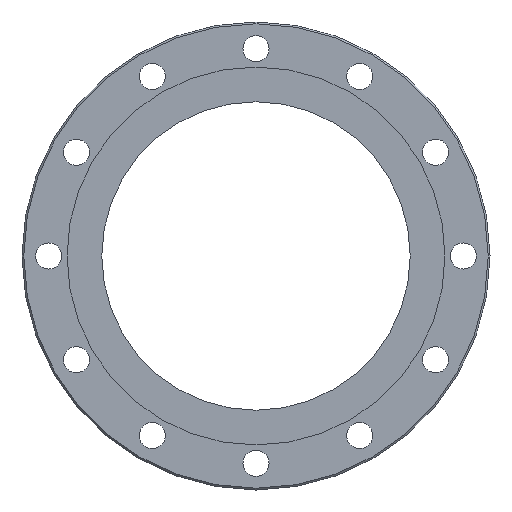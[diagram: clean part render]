
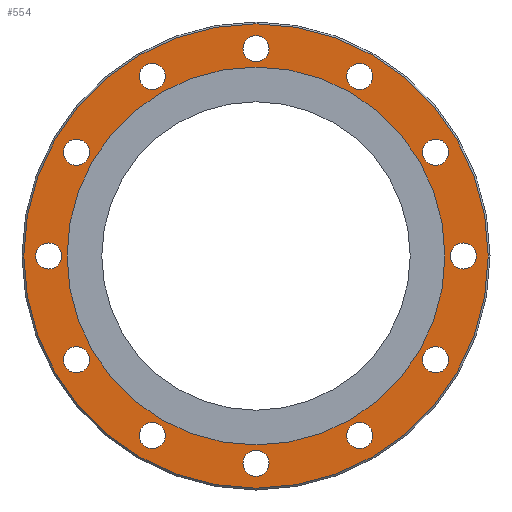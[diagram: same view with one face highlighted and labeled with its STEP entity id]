
A CAD part, left-side view. The second image highlights one B-rep face of the part: STEP entity #554.
In plain terms, the highlighted planar face has unit normal (-1, 0, 0).
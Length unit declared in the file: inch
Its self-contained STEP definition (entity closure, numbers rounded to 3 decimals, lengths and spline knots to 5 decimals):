
#15=FACE_BOUND('',#99,.T.);
#16=FACE_BOUND('',#100,.T.);
#17=FACE_BOUND('',#101,.T.);
#18=FACE_BOUND('',#102,.T.);
#19=FACE_BOUND('',#103,.T.);
#20=FACE_BOUND('',#104,.T.);
#21=FACE_BOUND('',#105,.T.);
#22=FACE_BOUND('',#106,.T.);
#23=FACE_BOUND('',#107,.T.);
#24=FACE_BOUND('',#108,.T.);
#25=FACE_BOUND('',#109,.T.);
#26=FACE_BOUND('',#110,.T.);
#27=FACE_BOUND('',#111,.T.);
#45=PLANE('',#606);
#71=FACE_OUTER_BOUND('',#98,.T.);
#98=EDGE_LOOP('',(#385));
#99=EDGE_LOOP('',(#386,#387));
#100=EDGE_LOOP('',(#388));
#101=EDGE_LOOP('',(#389));
#102=EDGE_LOOP('',(#390));
#103=EDGE_LOOP('',(#391));
#104=EDGE_LOOP('',(#392));
#105=EDGE_LOOP('',(#393));
#106=EDGE_LOOP('',(#394));
#107=EDGE_LOOP('',(#395));
#108=EDGE_LOOP('',(#396));
#109=EDGE_LOOP('',(#397));
#110=EDGE_LOOP('',(#398));
#111=EDGE_LOOP('',(#399));
#193=CIRCLE('',#600,7.7155);
#198=CIRCLE('',#607,6.2795);
#199=CIRCLE('',#608,6.2795);
#200=CIRCLE('',#609,0.435);
#201=CIRCLE('',#610,0.435);
#202=CIRCLE('',#611,0.435);
#203=CIRCLE('',#612,0.435);
#204=CIRCLE('',#613,0.435);
#205=CIRCLE('',#614,0.435);
#206=CIRCLE('',#615,0.435);
#207=CIRCLE('',#616,0.435);
#208=CIRCLE('',#617,0.435);
#209=CIRCLE('',#618,0.435);
#210=CIRCLE('',#619,0.435);
#211=CIRCLE('',#620,0.435);
#247=VERTEX_POINT('',#866);
#252=VERTEX_POINT('',#880);
#253=VERTEX_POINT('',#881);
#254=VERTEX_POINT('',#884);
#255=VERTEX_POINT('',#886);
#256=VERTEX_POINT('',#888);
#257=VERTEX_POINT('',#890);
#258=VERTEX_POINT('',#892);
#259=VERTEX_POINT('',#894);
#260=VERTEX_POINT('',#896);
#261=VERTEX_POINT('',#898);
#262=VERTEX_POINT('',#900);
#263=VERTEX_POINT('',#902);
#264=VERTEX_POINT('',#904);
#265=VERTEX_POINT('',#906);
#300=EDGE_CURVE('',#247,#247,#193,.T.);
#307=EDGE_CURVE('',#252,#253,#198,.T.);
#308=EDGE_CURVE('',#253,#252,#199,.T.);
#309=EDGE_CURVE('',#254,#254,#200,.T.);
#310=EDGE_CURVE('',#255,#255,#201,.T.);
#311=EDGE_CURVE('',#256,#256,#202,.T.);
#312=EDGE_CURVE('',#257,#257,#203,.T.);
#313=EDGE_CURVE('',#258,#258,#204,.T.);
#314=EDGE_CURVE('',#259,#259,#205,.T.);
#315=EDGE_CURVE('',#260,#260,#206,.T.);
#316=EDGE_CURVE('',#261,#261,#207,.T.);
#317=EDGE_CURVE('',#262,#262,#208,.T.);
#318=EDGE_CURVE('',#263,#263,#209,.T.);
#319=EDGE_CURVE('',#264,#264,#210,.T.);
#320=EDGE_CURVE('',#265,#265,#211,.T.);
#385=ORIENTED_EDGE('',*,*,#300,.F.);
#386=ORIENTED_EDGE('',*,*,#307,.F.);
#387=ORIENTED_EDGE('',*,*,#308,.F.);
#388=ORIENTED_EDGE('',*,*,#309,.T.);
#389=ORIENTED_EDGE('',*,*,#310,.T.);
#390=ORIENTED_EDGE('',*,*,#311,.T.);
#391=ORIENTED_EDGE('',*,*,#312,.T.);
#392=ORIENTED_EDGE('',*,*,#313,.T.);
#393=ORIENTED_EDGE('',*,*,#314,.T.);
#394=ORIENTED_EDGE('',*,*,#315,.T.);
#395=ORIENTED_EDGE('',*,*,#316,.T.);
#396=ORIENTED_EDGE('',*,*,#317,.T.);
#397=ORIENTED_EDGE('',*,*,#318,.T.);
#398=ORIENTED_EDGE('',*,*,#319,.T.);
#399=ORIENTED_EDGE('',*,*,#320,.T.);
#554=ADVANCED_FACE('',(#71,#15,#16,#17,#18,#19,#20,#21,#22,#23,#24,#25,
#26,#27),#45,.T.);
#600=AXIS2_PLACEMENT_3D('',#867,#684,#685);
#606=AXIS2_PLACEMENT_3D('',#879,#698,#699);
#607=AXIS2_PLACEMENT_3D('',#882,#700,#701);
#608=AXIS2_PLACEMENT_3D('',#883,#702,#703);
#609=AXIS2_PLACEMENT_3D('',#885,#704,#705);
#610=AXIS2_PLACEMENT_3D('',#887,#706,#707);
#611=AXIS2_PLACEMENT_3D('',#889,#708,#709);
#612=AXIS2_PLACEMENT_3D('',#891,#710,#711);
#613=AXIS2_PLACEMENT_3D('',#893,#712,#713);
#614=AXIS2_PLACEMENT_3D('',#895,#714,#715);
#615=AXIS2_PLACEMENT_3D('',#897,#716,#717);
#616=AXIS2_PLACEMENT_3D('',#899,#718,#719);
#617=AXIS2_PLACEMENT_3D('',#901,#720,#721);
#618=AXIS2_PLACEMENT_3D('',#903,#722,#723);
#619=AXIS2_PLACEMENT_3D('',#905,#724,#725);
#620=AXIS2_PLACEMENT_3D('',#907,#726,#727);
#684=DIRECTION('center_axis',(1.,0.,0.));
#685=DIRECTION('ref_axis',(0.,-1.,0.));
#698=DIRECTION('center_axis',(-1.,0.,0.));
#699=DIRECTION('ref_axis',(0.,0.,1.));
#700=DIRECTION('center_axis',(-1.,0.,0.));
#701=DIRECTION('ref_axis',(0.,0.,1.));
#702=DIRECTION('center_axis',(-1.,0.,0.));
#703=DIRECTION('ref_axis',(0.,0.,1.));
#704=DIRECTION('center_axis',(1.,0.,0.));
#705=DIRECTION('ref_axis',(0.,0.,-1.));
#706=DIRECTION('center_axis',(1.,0.,0.));
#707=DIRECTION('ref_axis',(0.,-0.5,-0.866));
#708=DIRECTION('center_axis',(1.,0.,0.));
#709=DIRECTION('ref_axis',(0.,-0.866,-0.5));
#710=DIRECTION('center_axis',(1.,0.,0.));
#711=DIRECTION('ref_axis',(0.,-1.,0.));
#712=DIRECTION('center_axis',(1.,0.,0.));
#713=DIRECTION('ref_axis',(0.,-0.866,0.5));
#714=DIRECTION('center_axis',(1.,0.,0.));
#715=DIRECTION('ref_axis',(0.,-0.5,0.866));
#716=DIRECTION('center_axis',(1.,0.,0.));
#717=DIRECTION('ref_axis',(0.,0.,
1.));
#718=DIRECTION('center_axis',(1.,0.,0.));
#719=DIRECTION('ref_axis',(0.,0.5,0.866));
#720=DIRECTION('center_axis',(1.,0.,0.));
#721=DIRECTION('ref_axis',(0.,0.866,0.5));
#722=DIRECTION('center_axis',(1.,0.,0.));
#723=DIRECTION('ref_axis',(0.,1.,0.));
#724=DIRECTION('center_axis',(1.,0.,0.));
#725=DIRECTION('ref_axis',(0.,0.866,-0.5));
#726=DIRECTION('center_axis',(1.,0.,0.));
#727=DIRECTION('ref_axis',(0.,0.5,-0.866));
#866=CARTESIAN_POINT('',(-3.032,7.7155,0.));
#867=CARTESIAN_POINT('Origin',(-3.032,0.,0.));
#879=CARTESIAN_POINT('Origin',(-3.032,6.2795,0.));
#880=CARTESIAN_POINT('',(-3.032,6.2795,0.));
#881=CARTESIAN_POINT('',(-3.032,-6.2795,0.));
#882=CARTESIAN_POINT('Origin',(-3.032,0.,0.));
#883=CARTESIAN_POINT('Origin',(-3.032,0.,0.));
#884=CARTESIAN_POINT('',(-3.032,0.,7.325));
#885=CARTESIAN_POINT('Origin',(-3.032,0.,6.89));
#886=CARTESIAN_POINT('',(-3.032,3.6625,6.34364));
#887=CARTESIAN_POINT('Origin',(-3.032,3.445,5.96692));
#888=CARTESIAN_POINT('',(-3.032,6.34364,3.6625));
#889=CARTESIAN_POINT('Origin',(-3.032,5.96692,3.445));
#890=CARTESIAN_POINT('',(-3.032,7.325,0.));
#891=CARTESIAN_POINT('Origin',(-3.032,6.89,0.));
#892=CARTESIAN_POINT('',(-3.032,6.34364,-3.6625));
#893=CARTESIAN_POINT('Origin',(-3.032,5.96692,-3.445));
#894=CARTESIAN_POINT('',(-3.032,3.6625,-6.34364));
#895=CARTESIAN_POINT('Origin',(-3.032,3.445,-5.96692));
#896=CARTESIAN_POINT('',(-3.032,0.,-7.325));
#897=CARTESIAN_POINT('Origin',(-3.032,0.,-6.89));
#898=CARTESIAN_POINT('',(-3.032,-3.6625,-6.34364));
#899=CARTESIAN_POINT('Origin',(-3.032,-3.445,-5.96692));
#900=CARTESIAN_POINT('',(-3.032,-6.34364,-3.6625));
#901=CARTESIAN_POINT('Origin',(-3.032,-5.96692,-3.445));
#902=CARTESIAN_POINT('',(-3.032,-7.325,0.));
#903=CARTESIAN_POINT('Origin',(-3.032,-6.89,0.));
#904=CARTESIAN_POINT('',(-3.032,-6.34364,3.6625));
#905=CARTESIAN_POINT('Origin',(-3.032,-5.96692,3.445));
#906=CARTESIAN_POINT('',(-3.032,-3.6625,6.34364));
#907=CARTESIAN_POINT('Origin',(-3.032,-3.445,5.96692));
